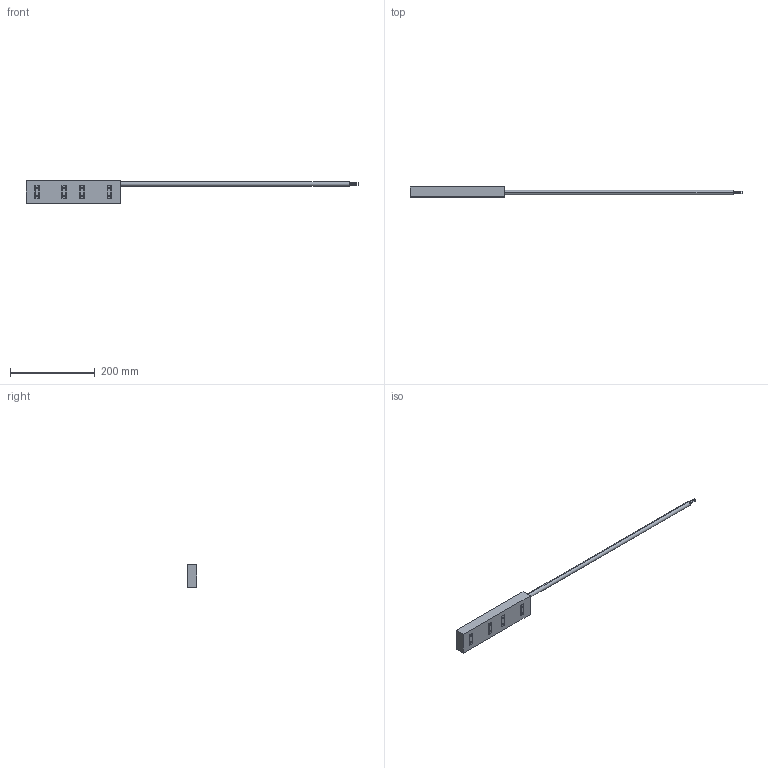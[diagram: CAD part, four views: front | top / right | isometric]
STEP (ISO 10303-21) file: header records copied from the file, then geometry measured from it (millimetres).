
FILE_DESCRIPTION (( 'STEP AP214' ), '1' );
FILE_NAME ('CoilUnitTD55-9N.STEP', '2025-10-02T07:59:41', ( '' ), ( '' ), 'SwSTEP 2.0', 'SolidWorks 2023', '' );
FILE_SCHEMA (( 'AUTOMOTIVE_DESIGN' ));
Length unit declared in the file: millimetre
Products named in the file (1): CoilUnitTD55-9N
Bounding box: 783.97 x 23.6 x 54.97 mm (x, y, z)
Volume: 334354.9 mm3; surface area: 56450 mm2
Topology: 1 solids, 1 shells, 168 faces, 384 edges, 256 vertices
Faces by surface type: cylinder 92, plane 76
Entity records: 6683 total; most frequent: DIRECTION 906, CARTESIAN_POINT 809, ORIENTED_EDGE 768, EDGE_CURVE 384, AXIS2_PLACEMENT_3D 353, VERTEX_POINT 256, EDGE_LOOP 206, VECTOR 200
